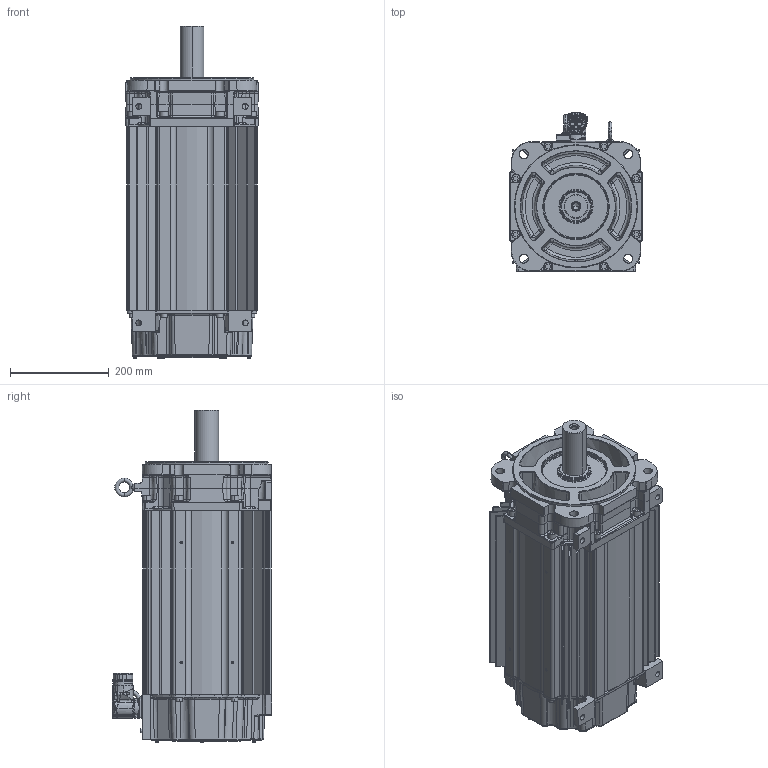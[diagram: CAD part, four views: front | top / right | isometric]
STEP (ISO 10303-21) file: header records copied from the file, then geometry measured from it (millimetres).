
FILE_DESCRIPTION((''),'2;1');
FILE_NAME('VPCB3003XXX4AS_ASM','2020-01-16T13:38:12',('VThimma'),('Rockwell Automation'),'CREO PARAMETRIC BY PTC INC, 2017380','CREO PARAMETRIC BY PTC INC, 2017380','');
FILE_SCHEMA(('CONFIG_CONTROL_DESIGN','SHAPE_APPEARANCE_LAYERS_GROUPS'));
Products named in the file (20): 10001441962; 10001404634_AF0; 10001404629_AF6; 10001404635_ASM; 10001585735; 10001442012_ASM; 10001439798_KEYLESS; 10001440031_ASM; 10001405269_AF27; 10001405369_ASM; 10001586887; 0002-5004; 10001609981; 10001737030; 10000801000; 10000801001; 10000801002_ASM; 221404-Q12; 10001408124; VPCB3003XXX4AS_ASM
Assembly tree (42 placements, depth 4):
  VPCB3003XXX4AS_ASM
    10001442012_ASM
      10001441962
      10001404635_ASM
        10001404634_AF0
        10001404629_AF6
      10001585735  x8
    10001440031_ASM
      10001439798_KEYLESS
    10001405369_ASM
      10001405269_AF27
    10001586887  x7
    0002-5004  x2
    10001609981
    10001737030
    10000801002_ASM
      10000801000
      10000801001
    221404-Q12  x10
    10001408124
Bounding box: 269.49 x 324.1 x 673.83 mm (x, y, z)
Surface area: 2148618.4 mm2 (no closed solid volume)
Topology: 0 solids, 40 shells, 4476 faces, 11148 edges, 6811 vertices
Faces by surface type: cylinder 1433, plane 1228, bspline 754, torus 547, cone 443, sphere 64, extrusion 7
Entity records: 184705 total; most frequent: CARTESIAN_POINT 53897, ORIENTED_EDGE 17358, DIRECTION 16279, PRESENTATION_STYLE_ASSIGNMENT 12132, STYLED_ITEM 12132, CURVE_STYLE 8690, EDGE_CURVE 8683, AXIS2_PLACEMENT_3D 6389
